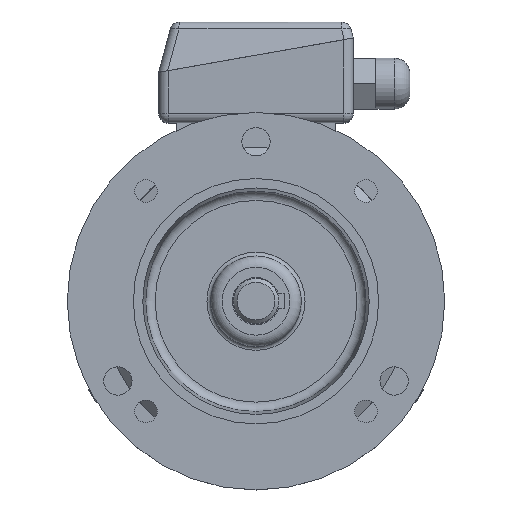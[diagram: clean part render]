
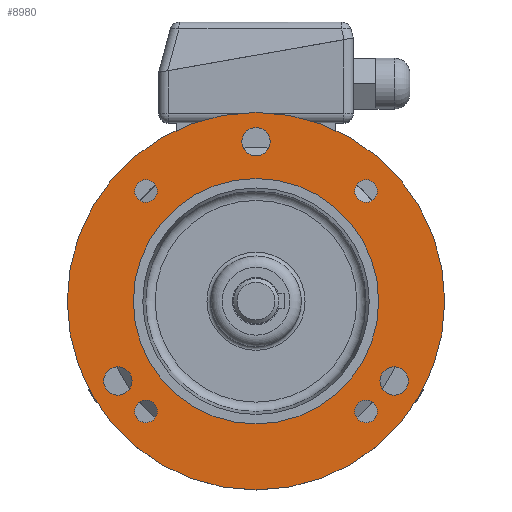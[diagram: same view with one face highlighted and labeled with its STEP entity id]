
A CAD part, top view. The second image highlights one B-rep face of the part: STEP entity #8980.
In plain terms, the highlighted planar face has unit normal (0, 0, 1).
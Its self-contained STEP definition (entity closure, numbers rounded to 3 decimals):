
#4562=ORIENTED_EDGE('',*,*,#5859,.F.);
#4563=ORIENTED_EDGE('',*,*,#5857,.T.);
#4564=ORIENTED_EDGE('',*,*,#5851,.F.);
#4565=ORIENTED_EDGE('',*,*,#5864,.F.);
#4566=ORIENTED_EDGE('',*,*,#5862,.F.);
#4567=ORIENTED_EDGE('',*,*,#5855,.F.);
#4568=ORIENTED_EDGE('',*,*,#5867,.F.);
#4569=ORIENTED_EDGE('',*,*,#5853,.F.);
#4570=ORIENTED_EDGE('',*,*,#5860,.F.);
#5851=EDGE_CURVE('',#6695,#6695,#7037,.T.);
#5853=EDGE_CURVE('',#6697,#6697,#7039,.T.);
#5855=EDGE_CURVE('',#6699,#6699,#7041,.T.);
#5857=EDGE_CURVE('',#6701,#6701,#7043,.T.);
#5859=EDGE_CURVE('',#6703,#6703,#7045,.T.);
#5860=EDGE_CURVE('',#6704,#6704,#7046,.T.);
#5862=EDGE_CURVE('',#6706,#6706,#7048,.T.);
#5864=EDGE_CURVE('',#6708,#6708,#7050,.T.);
#5867=EDGE_CURVE('',#6711,#6711,#7053,.T.);
#6695=VERTEX_POINT('',#19030);
#6697=VERTEX_POINT('',#19035);
#6699=VERTEX_POINT('',#19040);
#6701=VERTEX_POINT('',#19045);
#6703=VERTEX_POINT('',#19050);
#6704=VERTEX_POINT('',#19053);
#6706=VERTEX_POINT('',#19058);
#6708=VERTEX_POINT('',#19063);
#6711=VERTEX_POINT('',#19071);
#7037=CIRCLE('',#9743,6.);
#7039=CIRCLE('',#9746,7.5);
#7041=CIRCLE('',#9749,6.);
#7043=CIRCLE('',#9752,65.);
#7045=CIRCLE('',#9755,100.);
#7046=CIRCLE('',#9757,7.5);
#7048=CIRCLE('',#9760,6.);
#7050=CIRCLE('',#9763,6.);
#7053=CIRCLE('',#9768,7.5);
#7618=EDGE_LOOP('',(#4562));
#7619=EDGE_LOOP('',(#4563));
#7620=EDGE_LOOP('',(#4564));
#7621=EDGE_LOOP('',(#4565));
#7622=EDGE_LOOP('',(#4566));
#7623=EDGE_LOOP('',(#4567));
#7624=EDGE_LOOP('',(#4568));
#7625=EDGE_LOOP('',(#4569));
#7626=EDGE_LOOP('',(#4570));
#8193=FACE_BOUND('',#7618,.T.);
#8194=FACE_BOUND('',#7619,.T.);
#8195=FACE_BOUND('',#7620,.T.);
#8196=FACE_BOUND('',#7621,.T.);
#8197=FACE_BOUND('',#7622,.T.);
#8198=FACE_BOUND('',#7623,.T.);
#8199=FACE_BOUND('',#7624,.T.);
#8200=FACE_BOUND('',#7625,.T.);
#8201=FACE_BOUND('',#7626,.T.);
#8478=PLANE('',#9767);
#8980=ADVANCED_FACE('',(#8193,#8194,#8195,#8196,#8197,#8198,#8199,#8200,
#8201),#8478,.T.);
#9743=AXIS2_PLACEMENT_3D('',#19029,#12050,#12051);
#9746=AXIS2_PLACEMENT_3D('',#19034,#12056,#12057);
#9749=AXIS2_PLACEMENT_3D('',#19039,#12062,#12063);
#9752=AXIS2_PLACEMENT_3D('',#19044,#12068,#12069);
#9755=AXIS2_PLACEMENT_3D('',#19049,#12074,#12075);
#9757=AXIS2_PLACEMENT_3D('',#19052,#12078,#12079);
#9760=AXIS2_PLACEMENT_3D('',#19057,#12084,#12085);
#9763=AXIS2_PLACEMENT_3D('',#19062,#12090,#12091);
#9767=AXIS2_PLACEMENT_3D('',#19069,#12098,#12099);
#9768=AXIS2_PLACEMENT_3D('',#19070,#12100,#12101);
#12050=DIRECTION('',(0.,0.,1.));
#12051=DIRECTION('',(1.,0.,0.));
#12056=DIRECTION('',(0.,0.,1.));
#12057=DIRECTION('',(1.,0.,0.));
#12062=DIRECTION('',(0.,0.,1.));
#12063=DIRECTION('',(1.,0.,0.));
#12068=DIRECTION('',(0.,0.,-1.));
#12069=DIRECTION('',(-1.,0.,0.));
#12074=DIRECTION('',(0.,0.,-1.));
#12075=DIRECTION('',(-1.,0.,0.));
#12078=DIRECTION('',(0.,0.,1.));
#12079=DIRECTION('',(1.,0.,0.));
#12084=DIRECTION('',(0.,0.,1.));
#12085=DIRECTION('',(1.,0.,0.));
#12090=DIRECTION('',(0.,0.,1.));
#12091=DIRECTION('',(1.,0.,0.));
#12098=DIRECTION('',(0.,0.,1.));
#12099=DIRECTION('',(1.,0.,0.));
#12100=DIRECTION('',(0.,0.,1.));
#12101=DIRECTION('',(1.,0.,0.));
#19029=CARTESIAN_POINT('',(58.336,58.336,40.));
#19030=CARTESIAN_POINT('',(64.336,58.336,40.));
#19034=CARTESIAN_POINT('',(73.179,-42.25,40.));
#19035=CARTESIAN_POINT('',(80.679,-42.25,40.));
#19039=CARTESIAN_POINT('',(-58.336,58.336,40.));
#19040=CARTESIAN_POINT('',(-52.336,58.336,40.));
#19044=CARTESIAN_POINT('',(0.,0.,40.));
#19045=CARTESIAN_POINT('',(-65.,0.,40.));
#19049=CARTESIAN_POINT('',(0.,0.,40.));
#19050=CARTESIAN_POINT('',(-100.,0.,40.));
#19052=CARTESIAN_POINT('',(-73.179,-42.25,40.));
#19053=CARTESIAN_POINT('',(-65.679,-42.25,40.));
#19057=CARTESIAN_POINT('',(-58.336,-58.336,40.));
#19058=CARTESIAN_POINT('',(-52.336,-58.336,40.));
#19062=CARTESIAN_POINT('',(58.336,-58.336,40.));
#19063=CARTESIAN_POINT('',(64.336,-58.336,40.));
#19069=CARTESIAN_POINT('',(-100.,0.,40.));
#19070=CARTESIAN_POINT('',(0.,84.5,40.));
#19071=CARTESIAN_POINT('',(7.5,84.5,40.));
